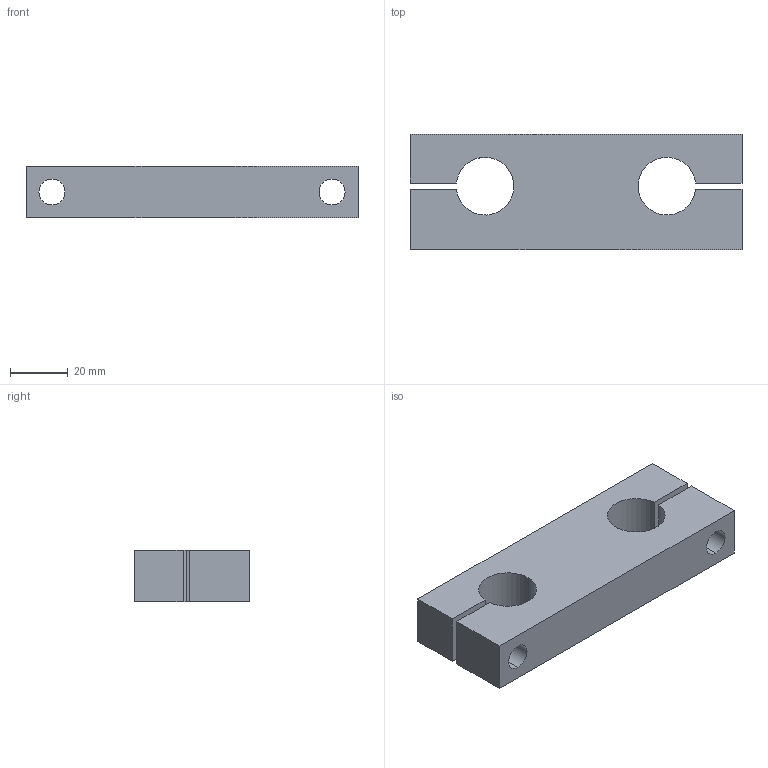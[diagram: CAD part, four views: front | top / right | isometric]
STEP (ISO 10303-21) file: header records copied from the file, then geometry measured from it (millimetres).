
FILE_DESCRIPTION (( 'STEP AP214' ), '1' );
FILE_NAME ('KTAC-20.step', '2020-03-04T13:12:31', ( '' ), ( '' ), 'SwSTEP 2.0', 'SolidWorks 2019', '' );
FILE_SCHEMA (( 'AUTOMOTIVE_DESIGN' ));
Length unit declared in the file: millimetre
Products named in the file (1): KTAC-20
Bounding box: 115 x 40 x 18 mm (x, y, z)
Volume: 62929.4 mm3; surface area: 18713 mm2
Topology: 1 solids, 1 shells, 35 faces, 89 edges, 57 vertices
Faces by surface type: cylinder 17, plane 14, cone 4
Entity records: 1103 total; most frequent: DIRECTION 195, CARTESIAN_POINT 180, ORIENTED_EDGE 174, EDGE_CURVE 87, AXIS2_PLACEMENT_3D 72, VERTEX_POINT 57, VECTOR 51, LINE 51
